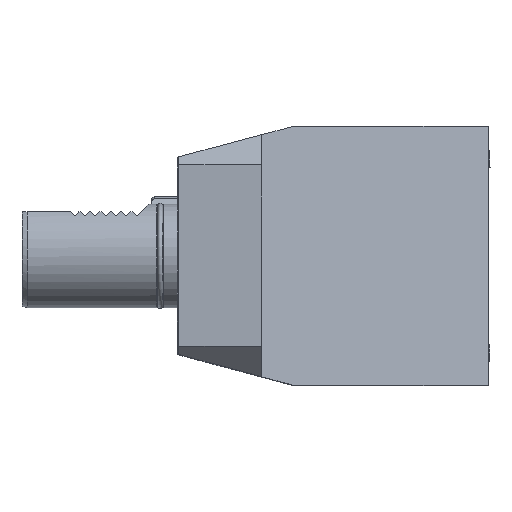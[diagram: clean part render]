
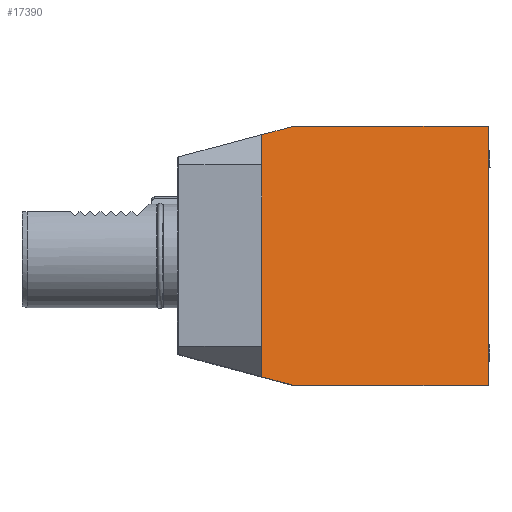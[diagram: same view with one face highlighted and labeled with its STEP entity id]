
A CAD part, top view. The second image highlights one B-rep face of the part: STEP entity #17390.
In plain terms, the highlighted planar face has unit normal (0.5, 0, 0.866) as drawn and (-0.866, 0, 0.5) by its records, which use the part's own axes.
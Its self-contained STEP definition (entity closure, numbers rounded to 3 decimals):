
#339=VECTOR('',#11968,1.);
#367=VECTOR('',#12044,1.);
#370=VECTOR('',#12049,1.);
#371=VECTOR('',#12050,1.);
#372=VECTOR('',#12051,1.);
#373=VECTOR('',#12052,1.);
#641=LINE('',#13391,#339);
#669=LINE('',#13492,#367);
#672=LINE('',#13497,#370);
#673=LINE('',#13499,#371);
#674=LINE('',#13500,#372);
#675=LINE('',#13501,#373);
#5495=ORIENTED_EDGE('',*,*,#6926,.T.);
#5496=ORIENTED_EDGE('',*,*,#6881,.F.);
#5497=ORIENTED_EDGE('',*,*,#6927,.T.);
#5498=ORIENTED_EDGE('',*,*,#6928,.F.);
#5499=ORIENTED_EDGE('',*,*,#6923,.T.);
#5500=ORIENTED_EDGE('',*,*,#6929,.F.);
#6311=VERTEX_POINT('',#13388);
#6312=VERTEX_POINT('',#13390);
#6340=VERTEX_POINT('',#13490);
#6341=VERTEX_POINT('',#13491);
#6342=VERTEX_POINT('',#13496);
#6343=VERTEX_POINT('',#13498);
#6881=EDGE_CURVE('',#6311,#6312,#641,.T.);
#6923=EDGE_CURVE('',#6340,#6341,#669,.T.);
#6926=EDGE_CURVE('',#6342,#6312,#672,.T.);
#6927=EDGE_CURVE('',#6311,#6343,#673,.T.);
#6928=EDGE_CURVE('',#6340,#6343,#674,.T.);
#6929=EDGE_CURVE('',#6342,#6341,#675,.T.);
#7336=EDGE_LOOP('',(#5495,#5496,#5497,#5498,#5499,#5500));
#7711=FACE_BOUND('',#7336,.T.);
#7955=PLANE('',#17037);
#11968=DIRECTION('',(-7.093,3.292,-12.285));
#12044=DIRECTION('',(-43.426,0.,-75.215));
#12047=DIRECTION('',(-0.866,0.,0.5));
#12048=DIRECTION('',(0.,0.866,0.));
#12049=DIRECTION('',(0.,-93.417,0.));
#12050=DIRECTION('',(43.426,0.,75.215));
#12051=DIRECTION('',(0.,-100.,0.));
#12052=DIRECTION('',(7.093,3.292,12.285));
#13388=CARTESIAN_POINT('',(-6.426,-50.,104.785));
#13390=CARTESIAN_POINT('',(-13.518,-46.708,92.5));
#13391=CARTESIAN_POINT('',(-6.426,-50.,104.785));
#13490=CARTESIAN_POINT('',(37.,50.,180.));
#13491=CARTESIAN_POINT('',(-6.426,50.,104.785));
#13492=CARTESIAN_POINT('',(37.,50.,180.));
#13495=CARTESIAN_POINT('',(-13.518,46.708,92.5));
#13496=CARTESIAN_POINT('',(-13.518,46.708,92.5));
#13497=CARTESIAN_POINT('',(-13.518,46.708,92.5));
#13498=CARTESIAN_POINT('',(37.,-50.,180.));
#13499=CARTESIAN_POINT('',(-6.426,-50.,104.785));
#13500=CARTESIAN_POINT('',(37.,50.,180.));
#13501=CARTESIAN_POINT('',(-13.518,46.708,92.5));
#17037=AXIS2_PLACEMENT_3D('',#13495,#12047,#12048);
#17390=ADVANCED_FACE('',(#7711),#7955,.T.);
